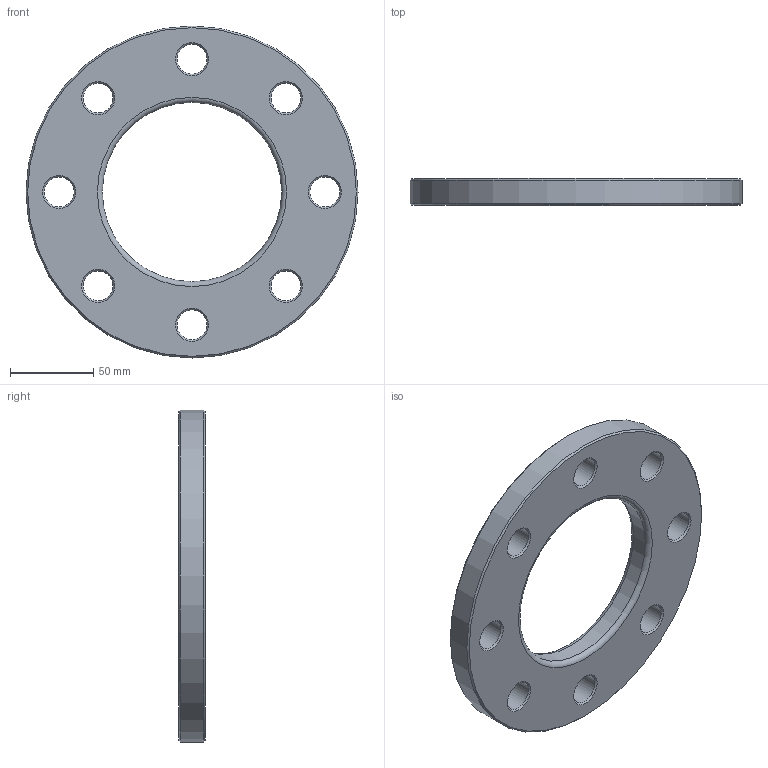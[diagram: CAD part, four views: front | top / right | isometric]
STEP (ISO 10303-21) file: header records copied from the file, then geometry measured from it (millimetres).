
FILE_DESCRIPTION(/* description */ ('Unknown'),/* implementation_level */ '2;1');
FILE_NAME(/* name */ 'FZ090C',/* time_stamp */ '2021-03-15T11:48:06+01:00',/* author */ ('Unknown'),/* organization */ ('Unknown'),/* preprocessor_version */ 'ST-DEVELOPER v16.7',/* originating_system */ 'Solid Edge',/* authorisation */ 'Unknown');
FILE_SCHEMA (('AUTOMOTIVE_DESIGN {1 0 10303 214 3 1 1}'));
Length unit declared in the file: millimetre
Products named in the file (1): FZ090C
Bounding box: 200 x 16 x 200 mm (x, y, z)
Volume: 321086.4 mm3; surface area: 61044.9 mm2
Topology: 1 solids, 1 shells, 32 faces, 94 edges, 64 vertices
Faces by surface type: cone 18, cylinder 10, plane 2, torus 2
Full cylindrical faces by diameter (mm): 18 x8, 108 x1, 200 x1
Entity records: 790 total; most frequent: DIRECTION 146, CARTESIAN_POINT 113, ORIENTED_EDGE 80, EDGE_LOOP 80, FACE_BOUND 80, AXIS2_PLACEMENT_3D 73, EDGE_CURVE 40, VERTEX_POINT 40
